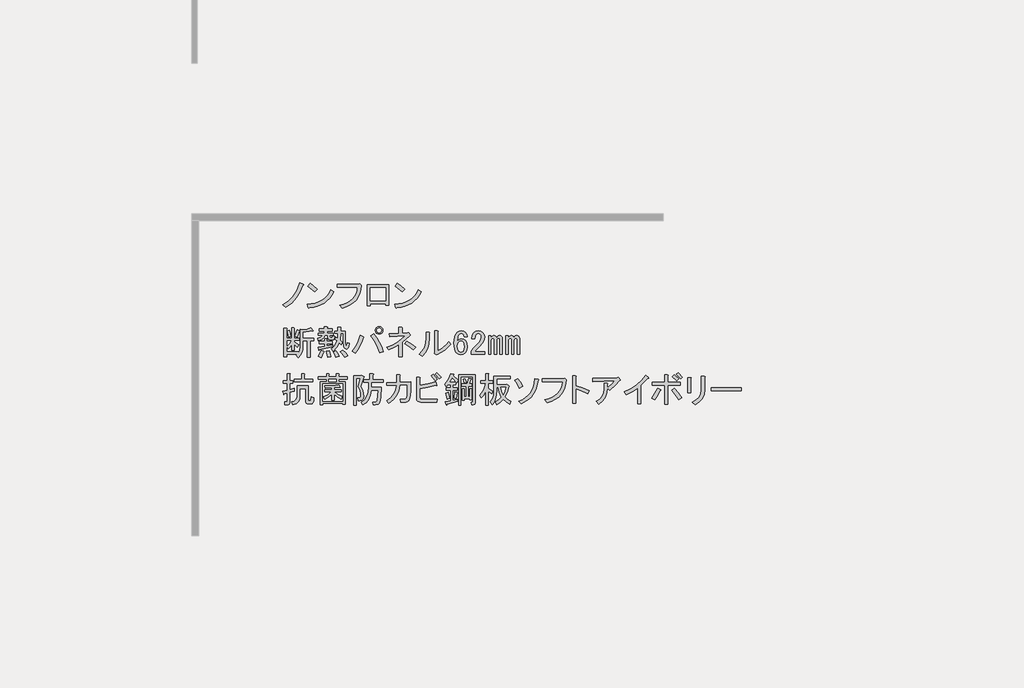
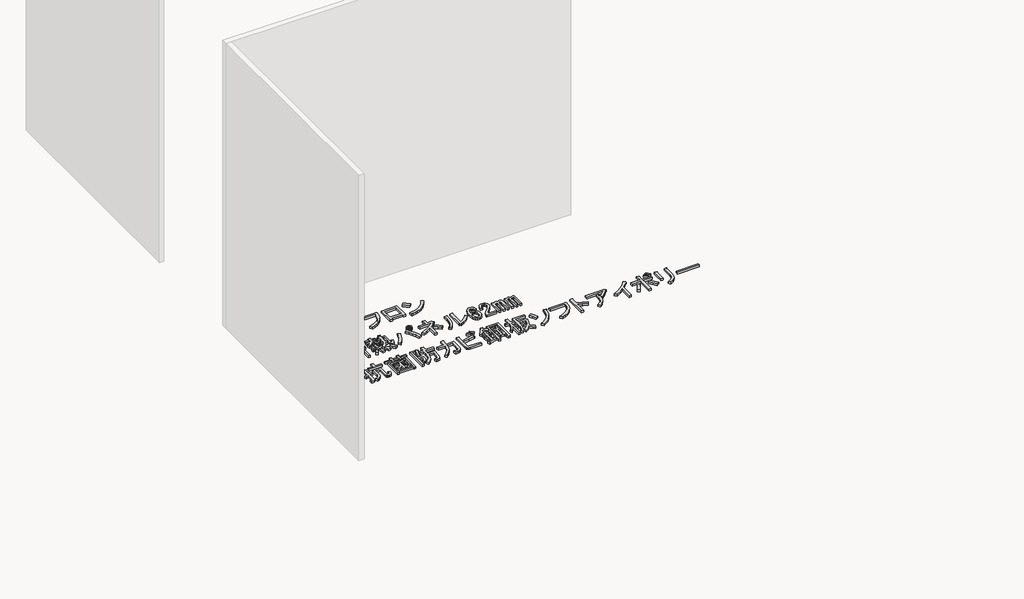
# One storey, part 69 of 117: 1 proxy.
"""IFC4 building model written with IfcOpenShell, lengths in millimetres."""

from ifc_helpers import new_model, si_unit, frame, origin, place, context, project, spatial, polyline, outline, extrude, element, save

model = new_model("IFC4")

# Units and contexts
model_context = context("Model", 3, world=origin())
ifc_project = project(units=[si_unit("LENGTHUNIT", "METRE", prefix="MILLI")], contexts=[model_context])

# Site, building, storey
site = spatial("IfcSite", under=ifc_project)
building = spatial("IfcBuilding", under=site)
storey = spatial("IfcBuildingStorey", under=building, Name="レベル 1", Elevation=500.0)

# Proxy
placement = place(None, origin())
element("IfcBuildingElementProxy", 1, Name="200㎜\u3000MS Pゴシック", ObjectType="200㎜\u3000MS Pゴシック", at=placement, inside=storey, context=model_context, shape_type="SweptSolid", body=[
    extrude(outline(polyline([(-7056.3293015, 3392.9503118), (-7081.9047498, 3333.1784775), (-7110.353844, 3287.2001434), (-7152.0217093, 3241.7965385), (-7201.1610538, 3204.439142), (-7228.7480543, 3226.2788507), (-7181.0455327, 3256.7394971), (-7141.3892195, 3295.2463519), (-7124.0036619, 3319.1694538), (-7108.6296565, 3347.2593423), (-7095.2672031, 3379.5160173), (-7083.9163019, 3415.9394788), (-7052.8809264, 3402.1459786), (-7049.7199159, 3397.5481452), (-7056.3293015, 3392.9503118)])), frame((0.0, 0.0, 500.0), z_axis=(0.0, 0.0, 1.0), x_axis=(1.0, 0.0, 0.0)), (0.0, 0.0, 1.0), 25.0),
    extrude(outline(polyline([(-6956.6022948, 3337.7763109), (-7015.2246708, 3384.9041033), (-6995.6838788, 3409.0427287), (-6968.3842429, 3389.2145721), (-6934.7625862, 3359.6160196), (-6956.6022948, 3337.7763109)])), frame((0.0, 0.0, 500.0), z_axis=(0.0, 0.0, 1.0), x_axis=(1.0, 0.0, 0.0)), (0.0, 0.0, 1.0), 25.0),
    extrude(outline(polyline([(-6794.5286672, 3337.7763109), (-6811.052131, 3308.034076), (-6830.1618761, 3282.0275808), (-6851.8579025, 3259.7568252), (-6876.1402102, 3241.2218093), (-6903.0087992, 3226.422533), (-6932.4636694, 3215.3589964), (-6964.504821, 3208.0311994), (-6999.1322539, 3204.439142), (-7004.8795456, 3196.3929336), (-7010.6268374, 3202.1402253), (-7019.8225042, 3232.0261425), (-6983.9917321, 3234.7022252), (-6951.2142088, 3241.0062859), (-6921.4899342, 3250.9383244), (-6894.8189084, 3264.4983409), (-6871.2011313, 3281.6863354), (-6850.636603, 3302.5023077), (-6833.1253234, 3326.946258), (-6818.6672926, 3355.0181862), (-6794.5286672, 3337.7763109)])), frame((0.0, 0.0, 500.0), z_axis=(0.0, 0.0, 1.0), x_axis=(1.0, 0.0, 0.0)), (0.0, 0.0, 1.0), 25.0),
    extrude(outline(polyline([(-6743.7685864, 3222.8304757), (-6709.985287, 3232.5110702), (-6680.4765359, 3244.8857078), (-6655.242333, 3259.9543884), (-6634.2826783, 3277.717112), (-6617.597572, 3298.1738786), (-6605.1870138, 3321.3246882), (-6597.0510039, 3347.1695409), (-6593.1895423, 3375.7084365), (-6765.6082951, 3375.7084365), (-6765.6082951, 3400.9965202), (-6590.8906256, 3400.9965202), (-6574.7982086, 3404.4448953), (-6562.1541668, 3392.9503118), (-6565.674383, 3356.4550091), (-6573.9361149, 3323.4080815), (-6586.9393625, 3293.8095289), (-6604.6841258, 3267.6593514), (-6627.1704048, 3244.957549), (-6654.3981995, 3225.7041216), (-6686.3675099, 3209.8990692), (-6723.078336, 3197.5423919), (-6743.7685864, 3222.8304757)])), frame((0.0, 0.0, 500.0), z_axis=(0.0, 0.0, 1.0), x_axis=(1.0, 0.0, 0.0)), (0.0, 0.0, 1.0), 25.0),
    extrude(outline(polyline([(-6329.044013, 3223.979934), (-6355.4815551, 3223.979934), (-6355.4815551, 3236.6239759), (-6483.0714321, 3236.6239759), (-6483.0714321, 3218.2326423), (-6509.5089742, 3218.2326423), (-6509.5089742, 3397.5481452), (-6329.044013, 3397.5481452), (-6329.044013, 3223.979934)]), holes=[polyline([(-6483.0714321, 3372.2600614), (-6483.0714321, 3261.9120596), (-6355.4815551, 3261.9120596), (-6355.4815551, 3372.2600614), (-6483.0714321, 3372.2600614)])]), frame((0.0, 0.0, 500.0), z_axis=(0.0, 0.0, 1.0), x_axis=(1.0, 0.0, 0.0)), (0.0, 0.0, 1.0), 25.0),
    extrude(outline(polyline([(-6052.9900951, 3337.7763109), (-6069.5135589, 3308.034076), (-6088.623304, 3282.0275808), (-6110.3193304, 3259.7568252), (-6134.6016381, 3241.2218093), (-6161.4702271, 3226.422533), (-6190.9250974, 3215.3589964), (-6222.9662489, 3208.0311994), (-6257.5936818, 3204.439142), (-6263.3409736, 3196.3929336), (-6269.0882653, 3202.1402253), (-6278.2839321, 3232.0261425), (-6242.4531601, 3234.7022252), (-6209.6756367, 3241.0062859), (-6179.9513622, 3250.9383244), (-6153.2803363, 3264.4983409), (-6129.6625593, 3281.6863354), (-6109.0980309, 3302.5023077), (-6091.5867514, 3326.946258), (-6077.1287205, 3355.0181862), (-6052.9900951, 3337.7763109)])), frame((0.0, 0.0, 500.0), z_axis=(0.0, 0.0, 1.0), x_axis=(1.0, 0.0, 0.0)), (0.0, 0.0, 1.0), 25.0),
    extrude(outline(polyline([(-6215.0637228, 3337.7763109), (-6273.6860987, 3384.9041033), (-6254.1453067, 3409.0427287), (-6226.8456709, 3389.2145721), (-6193.2240141, 3359.6160196), (-6215.0637228, 3337.7763109)])), frame((0.0, 0.0, 500.0), z_axis=(0.0, 0.0, 1.0), x_axis=(1.0, 0.0, 0.0)), (0.0, 0.0, 1.0), 25.0),
    extrude(outline(polyline([(-7122.9978859, 2960.7654779), (-7105.7560106, 3013.6405621), (-7085.0657603, 3007.8932704), (-7083.3415727, 3004.7322599), (-7087.364677, 3002.1459786), (-7104.6065522, 2953.8687278), (-7122.9978859, 2960.7654779)])), frame((0.0, 0.0, 500.0), z_axis=(0.0, 0.0, 1.0), x_axis=(1.0, 0.0, 0.0)), (0.0, 0.0, 1.0), 25.0),
    extrude(outline(polyline([(-6968.9704667, 3009.0427287), (-6970.6946542, 3004.4448953), (-6978.1661335, 3006.743812), (-7055.1798431, 2994.0997701), (-7055.1798431, 2944.673061), (-6963.2231749, 2944.673061), (-6963.2231749, 2922.8333523), (-6994.2585505, 2922.8333523), (-6994.2585505, 2782.5994334), (-7017.2477175, 2782.5994334), (-7017.2477175, 2922.8333523), (-7055.1798431, 2922.8333523), (-7055.1798431, 2873.4066432), (-7057.7661244, 2845.6041193), (-7065.5249683, 2820.8189236), (-7078.4563747, 2799.051056), (-7096.5603438, 2780.3005167), (-7113.8022191, 2799.8413086), (-7103.4570939, 2809.0369755), (-7193.1148454, 2809.0369755), (-7193.1148454, 2787.1972668), (-7216.1040124, 2787.1972668), (-7216.1040124, 3026.284604), (-7194.2643037, 3026.284604), (-7189.3791057, 3023.9856873), (-7193.1148454, 3019.3878539), (-7193.1148454, 2943.5236026), (-7150.5848863, 2943.5236026), (-7150.5848863, 3030.8824374), (-7132.1935527, 3030.8824374), (-7127.3083547, 3028.5835207), (-7131.0440943, 3023.9856873), (-7131.0440943, 2943.5236026), (-7087.364677, 2943.5236026), (-7087.364677, 2925.132269), (-7131.0440943, 2925.132269), (-7131.0440943, 2915.9366022), (-7090.813052, 2889.4990601), (-7104.6065522, 2867.6593514), (-7131.0440943, 2894.0968935), (-7131.0440943, 2841.2218093), (-7150.5848863, 2841.2218093), (-7150.5848863, 2889.4990601), (-7163.8036574, 2869.6709035), (-7178.1718868, 2853.8658512), (-7190.8159287, 2872.2571848), (-7168.97622, 2896.3958102), (-7151.7343447, 2925.132269), (-7193.1148454, 2925.132269), (-7193.1148454, 2830.8766841), (-7095.4108854, 2830.8766841), (-7095.4108854, 2817.0831839), (-7082.479479, 2841.2218093), (-7078.1690102, 2874.5561015), (-7078.1690102, 3019.3878539), (-7056.3293015, 3013.6405621), (-7020.1213634, 3021.1120414), (-6989.660717, 3034.3308125), (-6968.9704667, 3009.0427287)])), frame((0.0, 0.0, 500.0), z_axis=(0.0, 0.0, 1.0), x_axis=(1.0, 0.0, 0.0)), (0.0, 0.0, 1.0), 25.0),
    extrude(outline(polyline([(-7177.0224284, 2952.7192695), (-7189.6664703, 3003.2954369), (-7170.1256783, 3010.1921871), (-7162.3668344, 2986.0535617), (-7157.4816364, 2959.6160196), (-7177.0224284, 2952.7192695)])), frame((0.0, 0.0, 500.0), z_axis=(0.0, 0.0, 1.0), x_axis=(1.0, 0.0, 0.0)), (0.0, 0.0, 1.0), 25.0),
    extrude(outline(polyline([(-6878.1632569, 2832.0261425), (-6874.7148818, 2827.1409445), (-6880.4621736, 2823.979934), (-6890.2325696, 2798.4044857), (-6901.1524239, 2779.1510583), (-6924.141591, 2790.6456418), (-6911.4975491, 2814.209538), (-6901.1524239, 2841.2218093), (-6878.1632569, 2832.0261425)])), frame((0.0, 0.0, 500.0), z_axis=(0.0, 0.0, 1.0), x_axis=(1.0, 0.0, 0.0)), (0.0, 0.0, 1.0), 25.0),
    extrude(outline(polyline([(-6833.3343812, 2836.6239759), (-6823.2766206, 2809.32434), (-6818.3914226, 2787.1972668), (-6847.1278814, 2781.449975), (-6849.7141627, 2803.0023191), (-6857.4730066, 2833.1756008), (-6833.3343812, 2836.6239759)])), frame((0.0, 0.0, 500.0), z_axis=(0.0, 0.0, 1.0), x_axis=(1.0, 0.0, 0.0)), (0.0, 0.0, 1.0), 25.0),
    extrude(outline(polyline([(-6718.388546, 2842.3712677), (-6693.6751914, 2821.1062881), (-6674.7091286, 2796.3929336), (-6701.1466707, 2781.449975), (-6720.4000981, 2811.0485276), (-6739.0787963, 2830.8766841), (-6718.388546, 2842.3712677)])), frame((0.0, 0.0, 500.0), z_axis=(0.0, 0.0, 1.0), x_axis=(1.0, 0.0, 0.0)), (0.0, 0.0, 1.0), 25.0),
    extrude(outline(polyline([(-6777.0109219, 2783.7488917), (-6785.344495, 2808.4622463), (-6798.8506306, 2829.7272258), (-6778.1603803, 2837.7734343), (-6761.2058696, 2816.2210902), (-6749.4239215, 2792.9445585), (-6777.0109219, 2783.7488917)])), frame((0.0, 0.0, 500.0), z_axis=(0.0, 0.0, 1.0), x_axis=(1.0, 0.0, 0.0)), (0.0, 0.0, 1.0), 25.0),
    extrude(outline(polyline([(-6916.0953825, 2846.9691011), (-6918.1069346, 2842.0839031), (-6921.8426743, 2843.520726), (-6927.589966, 2867.6593514), (-6872.4159651, 2875.7055599), (-6872.4159651, 2898.6947269), (-6916.0953825, 2898.6947269), (-6916.0953825, 2917.0860605), (-6872.4159651, 2917.0860605), (-6872.4159651, 2940.0752276), (-6854.0246315, 2940.0752276), (-6849.1394335, 2937.7763109), (-6852.8751732, 2933.1784775), (-6852.8751732, 2917.0860605), (-6808.0462974, 2917.0860605), (-6808.0462974, 2898.6947269), (-6852.8751732, 2898.6947269), (-6852.8751732, 2879.1539349), (-6802.2990057, 2888.3496017), (-6802.2990057, 2872.2571848), (-6916.0953825, 2846.9691011)])), frame((0.0, 0.0, 500.0), z_axis=(0.0, 0.0, 1.0), x_axis=(1.0, 0.0, 0.0)), (0.0, 0.0, 1.0), 25.0),
    extrude(outline(polyline([(-6845.978423, 2968.8116864), (-6871.2665068, 2968.8116864), (-6875.8643402, 2951.3542877), (-6886.2094654, 2938.0636755), (-6902.3018823, 2928.9398498), (-6924.141591, 2923.9828107), (-6928.7394244, 2943.5236026), (-6903.4513406, 2952.1445403), (-6895.9798614, 2959.4723373), (-6891.9567571, 2968.8116864), (-6927.589966, 2968.8116864), (-6927.589966, 2987.20302), (-6873.5654235, 2987.20302), (-6873.5654235, 3004.4448953), (-6917.2448409, 3004.4448953), (-6917.2448409, 3022.8362289), (-6873.5654235, 3022.8362289), (-6873.5654235, 3041.2275626), (-6851.7257148, 3041.2275626), (-6846.8405168, 3038.9286459), (-6850.5762564, 3034.3308125), (-6850.5762564, 3022.8362289), (-6808.0462974, 3022.8362289), (-6808.0462974, 3004.4448953), (-6850.5762564, 3004.4448953), (-6850.5762564, 2987.20302), (-6797.7011723, 2987.20302), (-6797.7011723, 2968.8116864), (-6826.4376311, 2968.8116864), (-6826.4376311, 2956.1676445), (-6825.0008081, 2950.9950819), (-6820.6903393, 2949.2708944), (-6810.3452141, 2949.2708944), (-6806.6094745, 2952.4319049), (-6806.8968391, 2961.9149363), (-6787.3560471, 2959.6160196), (-6790.229693, 2938.0636755), (-6795.5459378, 2932.6755894), (-6803.448464, 2930.8795608), (-6827.5870894, 2930.8795608), (-6841.3805896, 2935.7647588), (-6845.978423, 2950.4203528), (-6845.978423, 2968.8116864)])), frame((0.0, 0.0, 500.0), z_axis=(0.0, 0.0, 1.0), x_axis=(1.0, 0.0, 0.0)), (0.0, 0.0, 1.0), 25.0),
    extrude(outline(polyline([(-6714.9401709, 2986.0535617), (-6736.7798796, 2986.0535617), (-6741.377713, 2928.5806441), (-6721.836921, 2910.1893104), (-6732.1820462, 2888.3496017), (-6748.2744631, 2904.4420187), (-6767.5278905, 2866.7972576), (-6797.7011723, 2834.3250592), (-6814.9430475, 2855.0153095), (-6799.8564067, 2866.9409399), (-6786.7813179, 2882.0275808), (-6775.7177813, 2900.2752321), (-6766.6657967, 2921.683894), (-6783.907672, 2936.6268525), (-6775.8614636, 2953.8687278), (-6762.0679633, 2943.5236026), (-6759.7690466, 2986.0535617), (-6787.3560471, 2986.0535617), (-6787.3560471, 3004.4448953), (-6759.7690466, 3004.4448953), (-6759.7690466, 3038.9286459), (-6737.9293379, 3038.9286459), (-6733.04414, 3036.6297292), (-6736.7798796, 3032.0318957), (-6736.7798796, 3004.4448953), (-6695.3993789, 3004.4448953), (-6695.3993789, 2907.8903937), (-6691.9510039, 2883.7517683), (-6688.7181523, 2881.7402162), (-6685.9163475, 2884.9012267), (-6681.6058787, 2906.7409354), (-6662.0650867, 2899.8441853), (-6666.591079, 2873.0474374), (-6674.421764, 2857.0268616), (-6685.5571418, 2851.7824579), (-6699.9972123, 2857.3142262), (-6706.5347567, 2864.6420232), (-6711.2044313, 2876.280289), (-6714.9401709, 2912.4882271), (-6714.9401709, 2986.0535617)])), frame((0.0, 0.0, 500.0), z_axis=(0.0, 0.0, 1.0), x_axis=(1.0, 0.0, 0.0)), (0.0, 0.0, 1.0), 25.0),
    extrude(outline(polyline([(-6456.3120417, 2983.754645), (-6429.6589762, 2947.0438188), (-6407.1726971, 2909.3272167), (-6388.8532047, 2870.6048384), (-6374.7004987, 2830.8766841), (-6405.7358742, 2820.531559), (-6421.1817208, 2863.6362472), (-6438.7828018, 2902.143102), (-6458.5391173, 2936.0521234), (-6480.4506671, 2965.3633113), (-6456.3120417, 2983.754645)])), frame((0.0, 0.0, 500.0), z_axis=(0.0, 0.0, 1.0), x_axis=(1.0, 0.0, 0.0)), (0.0, 0.0, 1.0), 25.0),
    extrude(outline(polyline([(-6543.6708765, 2957.3171029), (-6539.6477722, 2951.8571757), (-6545.9697932, 2946.9719777), (-6557.8954236, 2911.5542922), (-6572.9820644, 2877.717112), (-6591.2297158, 2845.460437), (-6612.6383776, 2814.7842672), (-6639.0759197, 2832.0261425), (-6615.8712292, 2863.4925649), (-6596.8333252, 2896.9705394), (-6581.9622078, 2932.460066), (-6571.2578769, 2969.9611447), (-6543.6708765, 2957.3171029)])), frame((0.0, 0.0, 500.0), z_axis=(0.0, 0.0, 1.0), x_axis=(1.0, 0.0, 0.0)), (0.0, 0.0, 1.0), 25.0),
    extrude(outline(polyline([(-6410.3337076, 2978.0073532), (-6422.9777495, 2980.3062699), (-6433.3228747, 2987.20302), (-6440.2196248, 2997.5481452), (-6442.5185415, 3010.1921871), (-6440.2196248, 3022.8362289), (-6433.3228747, 3033.1813541), (-6422.9777495, 3040.0781042), (-6410.3337076, 3042.3770209), (-6397.6896657, 3040.0781042), (-6387.3445406, 3033.1813541), (-6380.4477905, 3022.8362289), (-6378.1488738, 3010.1921871), (-6380.4477905, 2997.5481452), (-6387.3445406, 2987.20302), (-6397.6896657, 2980.3062699), (-6410.3337076, 2978.0073532)]), holes=[polyline([(-6410.3337076, 2989.5019367), (-6402.0001346, 2990.9387597), (-6395.390749, 2995.2492285), (-6391.0802802, 3001.858614), (-6389.6434573, 3010.1921871), (-6391.0802802, 3018.5257601), (-6395.390749, 3025.1351456), (-6402.0001346, 3029.4456145), (-6410.3337076, 3030.8824374), (-6418.6672807, 3029.4456145), (-6425.2766662, 3025.1351456), (-6429.587135, 3018.5257601), (-6431.023958, 3010.1921871), (-6429.587135, 3001.858614), (-6425.2766662, 2995.2492285), (-6418.6672807, 2990.9387597), (-6410.3337076, 2989.5019367)])]), frame((0.0, 0.0, 500.0), z_axis=(0.0, 0.0, 1.0), x_axis=(1.0, 0.0, 0.0)), (0.0, 0.0, 1.0), 25.0),
    extrude(outline(polyline([(-6120.6702029, 2844.6701844), (-6157.7402348, 2873.9813723), (-6190.7871624, 2895.2463519), (-6173.5452871, 2917.0860605), (-6134.7510677, 2893.8095289), (-6101.1294109, 2867.6593514), (-6120.6702029, 2844.6701844)])), frame((0.0, 0.0, 500.0), z_axis=(0.0, 0.0, 1.0), x_axis=(1.0, 0.0, 0.0)), (0.0, 0.0, 1.0), 25.0),
    extrude(outline(polyline([(-6166.648537, 2988.3524784), (-6159.7517869, 2990.6513951), (-6147.107745, 2973.4095198), (-6145.9582866, 2967.3748634), (-6151.7055784, 2965.3633113), (-6214.9257878, 2909.0398521), (-6214.9257878, 2788.3467251), (-6241.3633299, 2788.3467251), (-6241.3633299, 2890.6485184), (-6281.5943722, 2866.5098931), (-6326.4232479, 2844.6701844), (-6345.9640399, 2865.3604347), (-6300.4167527, 2884.8293855), (-6259.1799343, 2907.6030291), (-6222.2535848, 2933.6813655), (-6189.637704, 2963.0643946), (-6319.5264978, 2957.3171029), (-6322.9748729, 2982.6051866), (-6241.3633299, 2984.9041033), (-6241.3633299, 3036.6297292), (-6218.3741628, 3036.6297292), (-6212.3395065, 3033.1813541), (-6214.9257878, 3027.4340623), (-6214.9257878, 2986.0535617), (-6166.648537, 2988.3524784)])), frame((0.0, 0.0, 500.0), z_axis=(0.0, 0.0, 1.0), x_axis=(1.0, 0.0, 0.0)), (0.0, 0.0, 1.0), 25.0),
    extrude(outline(polyline([(-6067.703162, 2806.7380587), (-6042.5587606, 2835.9774056), (-6024.5984738, 2868.5214452), (-6013.8223018, 2904.3701775), (-6010.2302444, 2943.5236026), (-6010.2302444, 2995.2492285), (-5986.091619, 2995.2492285), (-5980.3443273, 2991.8008534), (-5983.7927023, 2986.0535617), (-5983.7927023, 2944.673061), (-5987.6002831, 2898.9102504), (-5999.0230255, 2858.17632), (-6018.0609295, 2822.4712699), (-6044.713995, 2791.7951002), (-6067.703162, 2806.7380587)])), frame((0.0, 0.0, 500.0), z_axis=(0.0, 0.0, 1.0), x_axis=(1.0, 0.0, 0.0)), (0.0, 0.0, 1.0), 25.0),
    extrude(outline(polyline([(-5913.6757429, 2837.7734343), (-5888.8905471, 2849.9864292), (-5865.1111275, 2867.0846222), (-5842.3374839, 2889.0680132), (-5820.5696163, 2915.9366022), (-5804.4771994, 2894.0968935), (-5827.753731, 2866.2943696), (-5853.9039086, 2842.6586322), (-5882.9277319, 2823.1896814), (-5914.8252012, 2807.8875171), (-5924.020868, 2803.2896837), (-5942.4122017, 2817.0831839), (-5940.113285, 2822.8304757), (-5940.113285, 3007.8932704), (-5915.9746596, 3007.8932704), (-5910.2273678, 3004.4448953), (-5913.6757429, 2998.6976035), (-5913.6757429, 2837.7734343)])), frame((0.0, 0.0, 500.0), z_axis=(0.0, 0.0, 1.0), x_axis=(1.0, 0.0, 0.0)), (0.0, 0.0, 1.0), 25.0),
    extrude(outline(polyline([(-5775.7407406, 2902.143102), (-5774.0165531, 2931.5261311), (-5768.8439905, 2956.4550091), (-5760.2230529, 2976.929736), (-5748.1537402, 2992.9503118), (-5732.6360524, 3003.2954369), (-5713.6699896, 3006.743812), (-5693.841833, 3003.2954369), (-5678.0367807, 2992.9503118), (-5666.8295618, 2975.9958011), (-5663.0938221, 2955.0181862), (-5689.5313642, 2955.0181862), (-5691.2555517, 2968.8116864), (-5696.4281143, 2978.0073532), (-5704.1869582, 2983.1799158), (-5713.6699896, 2984.9041033), (-5723.153021, 2983.1799158), (-5730.9118649, 2978.0073532), (-5738.9580734, 2967.0874989), (-5744.7053651, 2952.7192695), (-5749.3031985, 2913.6376855), (-5737.808615, 2928.5806441), (-5726.3140315, 2936.3394879), (-5712.5205313, 2938.9257692), (-5693.5544684, 2935.4773942), (-5678.0367807, 2925.132269), (-5665.1053742, 2903.5799249), (-5660.7949054, 2873.4066432), (-5665.3927388, 2842.0839031), (-5679.186239, 2819.3821006), (-5695.5660206, 2809.0369755), (-5717.1183647, 2805.5886004), (-5736.9465212, 2809.8990692), (-5755.0504903, 2822.8304757), (-5764.1024748, 2835.5463587), (-5770.568178, 2853.0037574), (-5775.7407406, 2902.143102)]), holes=[polyline([(-5714.819448, 2918.2355189), (-5725.4519377, 2916.2239668), (-5734.3602399, 2910.1893104), (-5743.8432714, 2895.2463519), (-5747.0042818, 2875.7055599), (-5743.5559068, 2851.5669345), (-5733.2107816, 2834.3250592), (-5724.8772085, 2828.2904028), (-5715.9689063, 2826.2788507), (-5706.4858749, 2828.0030383), (-5698.727031, 2833.1756008), (-5690.9681872, 2848.405924), (-5688.3819059, 2873.4066432), (-5690.9681872, 2895.821081), (-5698.727031, 2910.1893104), (-5706.7732395, 2916.2239668), (-5714.819448, 2918.2355189)])]), frame((0.0, 0.0, 500.0), z_axis=(0.0, 0.0, 1.0), x_axis=(1.0, 0.0, 0.0)), (0.0, 0.0, 1.0), 25.0),
    extrude(outline(polyline([(-5625.1616965, 2937.7763109), (-5620.5638631, 2969.099051), (-5606.7703629, 2991.8008534), (-5590.3905814, 3003.0080724), (-5571.137154, 3006.743812), (-5548.4353515, 3003.0080724), (-5530.9061116, 2991.8008534), (-5519.6988927, 2975.1337073), (-5515.9631531, 2955.0181862), (-5520.2736219, 2929.1553732), (-5533.2050283, 2906.7409354), (-5566.5393205, 2868.8088098), (-5584.9306542, 2848.1185594), (-5598.7241544, 2829.7272258), (-5512.514778, 2829.7272258), (-5512.514778, 2807.8875171), (-5629.7595299, 2807.8875171), (-5629.7595299, 2827.4283091), (-5623.7248736, 2841.2218093), (-5610.2187379, 2859.6131429), (-5563.0909455, 2911.3387688), (-5548.4353515, 2932.6037483), (-5543.5501535, 2955.0181862), (-5545.8490702, 2967.662228), (-5552.7458203, 2978.0073532), (-5560.5046642, 2983.1799158), (-5569.9876956, 2984.9041033), (-5578.6086332, 2983.1799158), (-5586.0801125, 2978.0073532), (-5595.5631439, 2961.6275717), (-5598.7241544, 2937.7763109), (-5625.1616965, 2937.7763109)])), frame((0.0, 0.0, 500.0), z_axis=(0.0, 0.0, 1.0), x_axis=(1.0, 0.0, 0.0)), (0.0, 0.0, 1.0), 25.0),
    extrude(outline(polyline([(-5463.0880689, 2806.7380587), (-5482.6288608, 2806.7380587), (-5482.6288608, 2964.213853), (-5463.0880689, 2964.213853), (-5463.0880689, 2946.9719777), (-5451.0187562, 2962.4896654), (-5437.7999851, 2967.662228), (-5428.6043183, 2966.2254051), (-5421.7075682, 2961.9149363), (-5414.8108181, 2948.121436), (-5401.8794116, 2962.77703), (-5388.373276, 2967.662228), (-5380.0397029, 2966.2254051), (-5373.4303174, 2961.9149363), (-5368.2577548, 2953.2939986), (-5366.5335673, 2941.2246859), (-5366.5335673, 2806.7380587), (-5386.0743593, 2806.7380587), (-5386.0743593, 2930.8795608), (-5388.6606406, 2940.3625922), (-5396.4194844, 2943.5236026), (-5406.7646096, 2938.9257692), (-5412.799266, 2930.3048316), (-5414.8108181, 2920.5344356), (-5414.8108181, 2806.7380587), (-5434.3516101, 2806.7380587), (-5434.3516101, 2930.8795608), (-5436.9378914, 2940.3625922), (-5444.6967352, 2943.5236026), (-5455.0418604, 2938.9257692), (-5461.0765167, 2930.3048316), (-5463.0880689, 2920.5344356), (-5463.0880689, 2806.7380587)])), frame((0.0, 0.0, 500.0), z_axis=(0.0, 0.0, 1.0), x_axis=(1.0, 0.0, 0.0)), (0.0, 0.0, 1.0), 25.0),
    extrude(outline(polyline([(-5241.2426069, 2967.662228), (-5232.9090339, 2966.2254051), (-5226.2996483, 2961.9149363), (-5221.1270858, 2953.2939986), (-5219.4028982, 2941.2246859), (-5219.4028982, 2806.7380587), (-5238.9436902, 2806.7380587), (-5238.9436902, 2930.8795608), (-5241.5299715, 2940.3625922), (-5249.2888154, 2943.5236026), (-5259.6339406, 2938.9257692), (-5265.6685969, 2930.3048316), (-5267.680149, 2920.5344356), (-5267.680149, 2806.7380587), (-5287.220941, 2806.7380587), (-5287.220941, 2930.8795608), (-5289.8072223, 2940.3625922), (-5297.5660662, 2943.5236026), (-5307.9111913, 2938.9257692), (-5313.9458477, 2930.3048316), (-5315.9573998, 2920.5344356), (-5315.9573998, 2806.7380587), (-5335.4981918, 2806.7380587), (-5335.4981918, 2964.213853), (-5315.9573998, 2964.213853), (-5315.9573998, 2946.9719777), (-5303.8880871, 2962.4896654), (-5290.6693161, 2967.662228), (-5281.4736492, 2966.2254051), (-5274.5768991, 2961.9149363), (-5267.680149, 2948.121436), (-5254.7487426, 2962.77703), (-5241.2426069, 2967.662228)])), frame((0.0, 0.0, 500.0), z_axis=(0.0, 0.0, 1.0), x_axis=(1.0, 0.0, 0.0)), (0.0, 0.0, 1.0), 25.0),
    extrude(outline(polyline([(-7010.3509674, 2538.9257692), (-7010.3509674, 2422.8304757), (-7008.3394153, 2415.9337256), (-7002.3047589, 2413.6348089), (-6995.4080088, 2413.6348089), (-6990.8101754, 2415.9337256), (-6988.5112587, 2422.8304757), (-6986.212342, 2445.8196427), (-6962.0737166, 2437.7734343), (-6964.3726333, 2414.7842672), (-6966.67155, 2403.2178425), (-6971.2693834, 2394.9561106), (-6978.1661335, 2389.9990715), (-6987.3618003, 2388.3467251), (-7009.201509, 2388.3467251), (-7019.7621576, 2389.6398658), (-7027.3054781, 2393.5192877), (-7031.8314703, 2399.9849909), (-7033.3401344, 2409.0369755), (-7033.3401344, 2517.0860605), (-7080.4679269, 2517.0860605), (-7080.4679269, 2451.5669345), (-7084.2036665, 2426.7098976), (-7095.4108854, 2406.1633296), (-7114.0895837, 2389.9272303), (-7140.2397612, 2378.0015999), (-7149.435428, 2403.2896837), (-7129.3199068, 2410.761163), (-7114.9516774, 2421.6810173), (-7106.3307398, 2436.0492467), (-7103.4570939, 2453.8658512), (-7103.4570939, 2538.9257692), (-7010.3509674, 2538.9257692)])), frame((0.0, 0.0, 500.0), z_axis=(0.0, 0.0, 1.0), x_axis=(1.0, 0.0, 0.0)), (0.0, 0.0, 1.0), 25.0),
    extrude(outline(polyline([(-7212.6556373, 2472.2571848), (-7216.1040124, 2466.2225285), (-7219.5523875, 2471.1077265), (-7227.5985959, 2494.0968935), (-7189.6664703, 2502.143102), (-7189.6664703, 2561.9149363), (-7223.0007625, 2561.9149363), (-7223.0007625, 2583.754645), (-7189.6664703, 2583.754645), (-7189.6664703, 2643.5264793), (-7167.8267616, 2643.5264793), (-7162.9415636, 2641.2275626), (-7166.6773033, 2636.6297292), (-7166.6773033, 2583.754645), (-7140.2397612, 2583.754645), (-7140.2397612, 2561.9149363), (-7166.6773033, 2561.9149363), (-7166.6773033, 2507.8903937), (-7131.0440943, 2518.2355189), (-7128.7451776, 2496.3958102), (-7166.6773033, 2484.9012267), (-7166.6773033, 2396.3929336), (-7170.4130429, 2384.3236209), (-7181.6202618, 2380.3005167), (-7208.0578039, 2380.3005167), (-7211.506179, 2405.5886004), (-7194.2643037, 2405.5886004), (-7190.8159287, 2406.7380587), (-7189.6664703, 2410.1864338), (-7189.6664703, 2479.1539349), (-7212.6556373, 2472.2571848)])), frame((0.0, 0.0, 500.0), z_axis=(0.0, 0.0, 1.0), x_axis=(1.0, 0.0, 0.0)), (0.0, 0.0, 1.0), 25.0),
    extrude(outline(polyline([(-7066.6744266, 2596.3986868), (-7066.6744266, 2642.3770209), (-7044.8347179, 2642.3770209), (-7039.9495199, 2640.0781042), (-7043.6852596, 2635.4802708), (-7043.6852596, 2596.3986868), (-6972.4188418, 2596.3986868), (-6972.4188418, 2574.5589781), (-7128.7451776, 2574.5589781), (-7128.7451776, 2596.3986868), (-7066.6744266, 2596.3986868)])), frame((0.0, 0.0, 500.0), z_axis=(0.0, 0.0, 1.0), x_axis=(1.0, 0.0, 0.0)), (0.0, 0.0, 1.0), 25.0),
    extrude(outline(polyline([(-6751.7228382, 2576.8578948), (-6696.5488373, 2576.8578948), (-6696.5488373, 2382.5994334), (-6716.0896293, 2382.5994334), (-6716.0896293, 2391.7951002), (-6888.5083821, 2391.7951002), (-6888.5083821, 2378.0015999), (-6908.0491741, 2378.0015999), (-6908.0491741, 2576.8578948), (-6855.1740899, 2576.8578948), (-6855.1740899, 2597.5481452), (-6925.2910493, 2597.5481452), (-6925.2910493, 2615.9394788), (-6855.1740899, 2615.9394788), (-6855.1740899, 2642.3770209), (-6836.7827562, 2642.3770209), (-6831.8975582, 2640.0781042), (-6835.6332979, 2635.4802708), (-6835.6332979, 2615.9394788), (-6771.2636302, 2615.9394788), (-6771.2636302, 2642.3770209), (-6752.8722965, 2642.3770209), (-6747.9870985, 2640.0781042), (-6751.7228382, 2635.4802708), (-6751.7228382, 2615.9394788), (-6678.1575036, 2615.9394788), (-6678.1575036, 2597.5481452), (-6751.7228382, 2597.5481452), (-6751.7228382, 2576.8578948)]), holes=[polyline([(-6888.5083821, 2558.4665612), (-6888.5083821, 2410.1864338), (-6716.0896293, 2410.1864338), (-6716.0896293, 2558.4665612), (-6888.5083821, 2558.4665612)]), polyline([(-6835.6332979, 2576.8578948), (-6771.2636302, 2576.8578948), (-6771.2636302, 2597.5481452), (-6835.6332979, 2597.5481452), (-6835.6332979, 2576.8578948)])]), frame((0.0, 0.0, 500.0), z_axis=(0.0, 0.0, 1.0), x_axis=(1.0, 0.0, 0.0)), (0.0, 0.0, 1.0), 25.0),
    extrude(outline(polyline([(-6870.1170484, 2538.9257692), (-6804.0231932, 2542.6615089), (-6752.8722965, 2549.2708944), (-6742.5271714, 2535.4773942), (-6740.2282547, 2529.4427378), (-6747.1250048, 2529.7301024), (-6791.9538805, 2526.2817274), (-6791.9538805, 2509.0398521), (-6732.1820462, 2509.0398521), (-6732.1820462, 2490.6485184), (-6788.5055054, 2490.6485184), (-6757.1827653, 2466.2225285), (-6720.6874627, 2450.4174761), (-6728.7336711, 2428.5777674), (-6761.2058696, 2444.0954552), (-6791.9538805, 2469.9582681), (-6791.9538805, 2419.3821006), (-6811.4946725, 2419.3821006), (-6811.4946725, 2468.8088098), (-6836.4953916, 2446.1070073), (-6872.4159651, 2426.2788507), (-6881.611632, 2445.8196427), (-6842.8174126, 2465.6477993), (-6813.7935892, 2490.6485184), (-6871.2665068, 2490.6485184), (-6871.2665068, 2509.0398521), (-6811.4946725, 2509.0398521), (-6811.4946725, 2523.9828107), (-6865.519215, 2521.683894), (-6870.1170484, 2538.9257692)])), frame((0.0, 0.0, 500.0), z_axis=(0.0, 0.0, 1.0), x_axis=(1.0, 0.0, 0.0)), (0.0, 0.0, 1.0), 25.0),
    extrude(outline(polyline([(-6475.8528337, 2504.4420187), (-6483.0369484, 2461.2654893), (-6497.6925424, 2425.9914861), (-6519.8196156, 2398.6200091), (-6549.4181682, 2379.1510583), (-6560.9127517, 2402.1402253), (-6533.2539101, 2421.9683819), (-6513.4975947, 2450.4174761), (-6501.6438055, 2487.487508), (-6497.6925424, 2533.1784775), (-6497.6925424, 2571.1106031), (-6541.3719597, 2571.1106031), (-6541.3719597, 2592.9503118), (-6488.4968756, 2592.9503118), (-6488.4968756, 2641.2275626), (-6463.2087918, 2641.2275626), (-6457.1741355, 2637.7791875), (-6462.0593335, 2632.0318957), (-6462.0593335, 2592.9503118), (-6373.5510404, 2592.9503118), (-6373.5510404, 2571.1106031), (-6474.7033753, 2571.1106031), (-6474.7033753, 2526.2817274), (-6391.942374, 2526.2817274), (-6397.6896657, 2444.0954552), (-6405.7358742, 2399.8413086), (-6410.6210722, 2391.2922121), (-6418.3799161, 2385.1857146), (-6442.5185415, 2380.3005167), (-6460.9098751, 2380.3005167), (-6464.3582502, 2402.1402253), (-6447.1163749, 2402.1402253), (-6434.7596976, 2405.3012358), (-6427.5755829, 2414.7842672), (-6418.3799161, 2504.4420187), (-6475.8528337, 2504.4420187)])), frame((0.0, 0.0, 500.0), z_axis=(0.0, 0.0, 1.0), x_axis=(1.0, 0.0, 0.0)), (0.0, 0.0, 1.0), 25.0),
    extrude(outline(polyline([(-6542.5214181, 2479.1539349), (-6540.5817071, 2451.4950933), (-6545.1076994, 2431.7387779), (-6556.0993949, 2419.8849886), (-6573.5567936, 2415.9337256), (-6587.3502938, 2415.9337256), (-6591.9481272, 2437.7734343), (-6580.4535437, 2437.7734343), (-6572.1199707, 2439.9286687), (-6566.6600435, 2446.3943719), (-6564.0737622, 2457.1705439), (-6564.3611268, 2472.2571848), (-6571.2578769, 2499.2694561), (-6587.3502938, 2534.3279358), (-6568.9589602, 2605.5943537), (-6603.4427108, 2605.5943537), (-6603.4427108, 2376.8521416), (-6626.4318778, 2376.8521416), (-6626.4318778, 2627.4340623), (-6562.0622101, 2627.4340623), (-6559.7632934, 2632.0318957), (-6535.624668, 2619.3878539), (-6534.187845, 2615.6521142), (-6539.073043, 2613.6405621), (-6565.5105851, 2535.4773942), (-6549.9928974, 2503.0051957), (-6542.5214181, 2479.1539349)])), frame((0.0, 0.0, 500.0), z_axis=(0.0, 0.0, 1.0), x_axis=(1.0, 0.0, 0.0)), (0.0, 0.0, 1.0), 25.0),
    extrude(outline(polyline([(-6170.096912, 2549.2708944), (-6235.6160381, 2546.9719777), (-6243.87777, 2500.706279), (-6261.7662156, 2459.6131429), (-6289.2813749, 2423.6925694), (-6326.4232479, 2392.9445585), (-6345.9640399, 2412.4853505), (-6310.9774013, 2440.7189213), (-6285.3301118, 2472.5445494), (-6269.0221715, 2507.9622349), (-6262.0535802, 2546.9719777), (-6343.6651232, 2544.673061), (-6345.9640399, 2567.662228), (-6260.9041219, 2569.9611447), (-6260.9041219, 2634.3308125), (-6236.7654965, 2634.3308125), (-6229.8687463, 2630.8824374), (-6234.4665798, 2625.1351456), (-6234.4665798, 2569.9611447), (-6143.6593699, 2573.4095198), (-6143.6593699, 2502.143102), (-6146.2456512, 2454.1532158), (-6154.0044951, 2422.8304757), (-6160.6138806, 2412.7727151), (-6170.096912, 2405.5886004), (-6182.4535893, 2401.2781316), (-6197.6839125, 2399.8413086), (-6225.2709129, 2399.8413086), (-6228.719288, 2428.5777674), (-6198.8333708, 2426.2788507), (-6184.752506, 2429.1524966), (-6176.9936622, 2437.7734343), (-6171.8210996, 2463.061518), (-6170.096912, 2502.143102), (-6170.096912, 2549.2708944)])), frame((0.0, 0.0, 500.0), z_axis=(0.0, 0.0, 1.0), x_axis=(1.0, 0.0, 0.0)), (0.0, 0.0, 1.0), 25.0),
    extrude(outline(polyline([(-5919.606948, 2546.9719777), (-5919.3195834, 2540.9373213), (-5929.9520731, 2543.5236026), (-5996.0459284, 2528.2932795), (-6065.5881587, 2517.0860605), (-6065.5881587, 2442.3712677), (-6061.852419, 2431.1640487), (-6050.6452001, 2427.4283091), (-5918.4574896, 2427.4283091), (-5920.7564063, 2402.1402253), (-6055.2430335, 2402.1402253), (-6071.3354504, 2404.0080952), (-6082.830034, 2409.6117046), (-6089.7267841, 2418.9510537), (-6092.0257008, 2432.0261425), (-6092.0257008, 2612.4911038), (-6069.0365337, 2612.4911038), (-6061.852419, 2609.0427287), (-6065.5881587, 2603.2954369), (-6065.5881587, 2544.673061), (-5992.3101887, 2556.4550091), (-5928.8026148, 2573.4095198), (-5919.606948, 2546.9719777)])), frame((0.0, 0.0, 500.0), z_axis=(0.0, 0.0, 1.0), x_axis=(1.0, 0.0, 0.0)), (0.0, 0.0, 1.0), 25.0),
    extrude(outline(polyline([(-5933.4004482, 2584.9041033), (-5969.0336571, 2625.1351456), (-5952.9412402, 2637.7791875), (-5917.3080313, 2597.5481452), (-5933.4004482, 2584.9041033)])), frame((0.0, 0.0, 500.0), z_axis=(0.0, 0.0, 1.0), x_axis=(1.0, 0.0, 0.0)), (0.0, 0.0, 1.0), 25.0),
    extrude(outline(polyline([(-5900.066156, 2600.9965202), (-5935.6993649, 2640.0781042), (-5921.9058647, 2652.7221461), (-5885.1231974, 2613.6405621), (-5900.066156, 2600.9965202)])), frame((0.0, 0.0, 500.0), z_axis=(0.0, 0.0, 1.0), x_axis=(1.0, 0.0, 0.0)), (0.0, 0.0, 1.0), 25.0),
    extrude(outline(polyline([(-5750.4526569, 2565.3633113), (-5791.8331575, 2609.0427287), (-5813.6728662, 2569.9611447), (-5758.4988653, 2569.9611447), (-5758.4988653, 2551.5698111), (-5784.9364074, 2551.5698111), (-5784.9364074, 2522.8333523), (-5747.0042818, 2522.8333523), (-5747.0042818, 2504.4420187), (-5784.9364074, 2504.4420187), (-5784.9364074, 2417.0831839), (-5745.8548235, 2427.4283091), (-5743.5559068, 2407.8875171), (-5835.5125749, 2382.5994334), (-5837.8114916, 2376.8521416), (-5842.409325, 2380.3005167), (-5849.3060752, 2403.2896837), (-5804.4771994, 2412.4853505), (-5804.4771994, 2504.4420187), (-5842.409325, 2504.4420187), (-5842.409325, 2522.8333523), (-5804.4771994, 2522.8333523), (-5804.4771994, 2551.5698111), (-5826.3169081, 2551.5698111), (-5841.2598667, 2533.1784775), (-5853.9039086, 2553.8687278), (-5825.7421789, 2591.5134888), (-5801.0288244, 2642.3770209), (-5779.1891157, 2636.6297292), (-5775.7407406, 2632.8939895), (-5781.4880324, 2630.8824374), (-5782.6374907, 2627.4340623), (-5737.808615, 2589.5019367), (-5750.4526569, 2565.3633113)])), frame((0.0, 0.0, 500.0), z_axis=(0.0, 0.0, 1.0), x_axis=(1.0, 0.0, 0.0)), (0.0, 0.0, 1.0), 25.0),
    extrude(outline(polyline([(-5682.6346141, 2602.1459786), (-5675.4504994, 2586.9156554), (-5669.9905722, 2566.5127697), (-5687.2324475, 2560.7654779), (-5698.727031, 2597.5481452), (-5682.6346141, 2602.1459786)])), frame((0.0, 0.0, 500.0), z_axis=(0.0, 0.0, 1.0), x_axis=(1.0, 0.0, 0.0)), (0.0, 0.0, 1.0), 25.0),
    extrude(outline(polyline([(-5629.7595299, 2600.9965202), (-5627.1732486, 2597.5481452), (-5633.207905, 2594.0997701), (-5645.8519468, 2556.1676445), (-5625.1616965, 2556.1676445), (-5625.1616965, 2537.7763109), (-5656.197072, 2537.7763109), (-5656.197072, 2449.2680178), (-5641.2541134, 2449.2680178), (-5641.2541134, 2517.0860605), (-5625.1616965, 2517.0860605), (-5625.1616965, 2422.8304757), (-5641.2541134, 2422.8304757), (-5641.2541134, 2430.8766841), (-5687.2324475, 2430.8766841), (-5687.2324475, 2418.2326423), (-5703.3248644, 2418.2326423), (-5703.3248644, 2514.7871438), (-5687.2324475, 2514.7871438), (-5687.2324475, 2449.2680178), (-5672.2894889, 2449.2680178), (-5672.2894889, 2537.7763109), (-5707.9226978, 2537.7763109), (-5707.9226978, 2556.1676445), (-5661.9443638, 2556.1676445), (-5651.5992386, 2605.5943537), (-5629.7595299, 2600.9965202)])), frame((0.0, 0.0, 500.0), z_axis=(0.0, 0.0, 1.0), x_axis=(1.0, 0.0, 0.0)), (0.0, 0.0, 1.0), 25.0),
    extrude(outline(polyline([(-5735.5096983, 2634.3308125), (-5595.2757793, 2634.3308125), (-5595.2757793, 2394.0940169), (-5599.011519, 2382.8867979), (-5610.2187379, 2379.1510583), (-5626.3111549, 2379.1510583), (-5630.9089883, 2400.990767), (-5619.4144047, 2400.990767), (-5615.9660297, 2402.1402253), (-5614.8165713, 2405.5886004), (-5614.8165713, 2615.9394788), (-5715.9689063, 2615.9394788), (-5715.9689063, 2376.8521416), (-5735.5096983, 2376.8521416), (-5735.5096983, 2634.3308125)])), frame((0.0, 0.0, 500.0), z_axis=(0.0, 0.0, 1.0), x_axis=(1.0, 0.0, 0.0)), (0.0, 0.0, 1.0), 25.0),
    extrude(outline(polyline([(-5747.0042818, 2486.050685), (-5744.4180005, 2482.8896746), (-5748.1537402, 2480.3033933), (-5756.1999486, 2433.1756008), (-5774.5912823, 2435.4745175), (-5768.8439905, 2489.4990601), (-5747.0042818, 2486.050685)])), frame((0.0, 0.0, 500.0), z_axis=(0.0, 0.0, 1.0), x_axis=(1.0, 0.0, 0.0)), (0.0, 0.0, 1.0), 25.0),
    extrude(outline(polyline([(-5824.0179914, 2484.9012267), (-5812.5234079, 2433.1756008), (-5833.2136582, 2427.4283091), (-5844.7082417, 2479.1539349), (-5824.0179914, 2484.9012267)])), frame((0.0, 0.0, 500.0), z_axis=(0.0, 0.0, 1.0), x_axis=(1.0, 0.0, 0.0)), (0.0, 0.0, 1.0), 25.0),
    extrude(outline(polyline([(-5424.0064849, 2405.5886004), (-5395.2700261, 2422.8304757), (-5373.4303174, 2444.6701844), (-5391.2469219, 2486.6254142), (-5401.0173179, 2527.4311857), (-5413.6613597, 2527.4311857), (-5413.6613597, 2503.2925603), (-5416.1039587, 2461.5528539), (-5423.4317557, 2427.1409445), (-5435.6447507, 2400.0568321), (-5452.7429437, 2380.3005167), (-5466.5364439, 2403.2896837), (-5453.4613552, 2420.6752413), (-5444.1220061, 2442.9459968), (-5438.5183966, 2470.1019504), (-5436.6505268, 2502.143102), (-5436.6505268, 2622.8362289), (-5299.8649829, 2622.8362289), (-5299.8649829, 2600.9965202), (-5413.6613597, 2600.9965202), (-5413.6613597, 2549.2708944), (-5334.3487334, 2549.2708944), (-5328.6014417, 2555.0181862), (-5309.0606497, 2541.2246859), (-5307.6238268, 2537.4889463), (-5312.5090247, 2533.1784775), (-5324.865702, 2486.6254142), (-5343.5444003, 2445.8196427), (-5324.5783374, 2427.4283091), (-5292.9682328, 2409.0369755), (-5302.1638996, 2384.8983501), (-5330.0382646, 2400.990767), (-5358.4873588, 2426.2788507), (-5382.9133488, 2401.8528608), (-5414.8108181, 2381.449975), (-5424.0064849, 2405.5886004)]), holes=[polyline([(-5379.1776092, 2527.4311857), (-5371.1314007, 2494.3842581), (-5358.4873588, 2466.5098931), (-5345.843317, 2492.6600706), (-5337.7971085, 2527.4311857), (-5379.1776092, 2527.4311857)])]), frame((0.0, 0.0, 500.0), z_axis=(0.0, 0.0, 1.0), x_axis=(1.0, 0.0, 0.0)), (0.0, 0.0, 1.0), 25.0),
    extrude(outline(polyline([(-5506.7674862, 2376.8521416), (-5506.7674862, 2496.3958102), (-5524.5840907, 2462.1994242), (-5543.5501535, 2440.072351), (-5555.044737, 2460.7626013), (-5537.8028617, 2483.4644037), (-5524.0093615, 2507.8903937), (-5513.6642364, 2534.0405712), (-5506.7674862, 2561.9149363), (-5548.1479869, 2561.9149363), (-5548.1479869, 2583.754645), (-5506.7674862, 2583.754645), (-5506.7674862, 2643.5264793), (-5484.9277776, 2643.5264793), (-5480.0425796, 2641.2275626), (-5483.7783192, 2636.6297292), (-5483.7783192, 2583.754645), (-5445.8461936, 2583.754645), (-5445.8461936, 2561.9149363), (-5483.7783192, 2561.9149363), (-5483.7783192, 2521.683894), (-5445.8461936, 2495.2463519), (-5456.1913188, 2472.2571848), (-5483.7783192, 2495.2463519), (-5483.7783192, 2376.8521416), (-5506.7674862, 2376.8521416)])), frame((0.0, 0.0, 500.0), z_axis=(0.0, 0.0, 1.0), x_axis=(1.0, 0.0, 0.0)), (0.0, 0.0, 1.0), 25.0),
    extrude(outline(polyline([(-5220.5523566, 2520.5344356), (-5240.9552423, 2559.9033842), (-5260.7833989, 2588.3524784), (-5235.4953152, 2602.1459786), (-5215.379794, 2573.4095198), (-5194.1148145, 2535.4773942), (-5220.5523566, 2520.5344356)])), frame((0.0, 0.0, 500.0), z_axis=(0.0, 0.0, 1.0), x_axis=(1.0, 0.0, 0.0)), (0.0, 0.0, 1.0), 25.0),
    extrude(outline(polyline([(-5126.2967717, 2482.60231), (-5114.1556179, 2503.4362426), (-5104.1696984, 2530.3048316), (-5096.3390134, 2563.2080769), (-5090.6635628, 2602.1459786), (-5061.927104, 2597.5481452), (-5057.041906, 2593.8124055), (-5063.0765624, 2587.20302), (-5068.3209661, 2551.8571757), (-5077.1574272, 2519.3849772), (-5089.5859456, 2489.7864247), (-5105.6065214, 2463.061518), (-5121.6989383, 2444.0954552), (-5143.538647, 2425.1293924), (-5204.4599397, 2387.1972668), (-5225.15019, 2407.8875171), (-5194.4021791, 2423.7644106), (-5167.6772724, 2441.5091739), (-5144.9754699, 2461.121807), (-5126.2967717, 2482.60231)])), frame((0.0, 0.0, 500.0), z_axis=(0.0, 0.0, 1.0), x_axis=(1.0, 0.0, 0.0)), (0.0, 0.0, 1.0), 25.0),
    extrude(outline(polyline([(-5004.6840781, 2422.8304757), (-4970.9007787, 2432.5110702), (-4941.3920276, 2444.8857078), (-4916.1578247, 2459.9543884), (-4895.19817, 2477.717112), (-4878.5130636, 2498.1738786), (-4866.1025055, 2521.3246882), (-4857.9664956, 2547.1695409), (-4854.105034, 2575.7084365), (-5026.5237868, 2575.7084365), (-5026.5237868, 2600.9965202), (-4851.8061172, 2600.9965202), (-4835.7137003, 2604.4448953), (-4823.0696584, 2592.9503118), (-4826.5898746, 2556.4550091), (-4834.8516066, 2523.4080815), (-4847.8548542, 2493.8095289), (-4865.5996175, 2467.6593514), (-4888.0858965, 2444.957549), (-4915.3136912, 2425.7041216), (-4947.2830016, 2409.8990692), (-4983.9938277, 2397.5423919), (-5004.6840781, 2422.8304757)])), frame((0.0, 0.0, 500.0), z_axis=(0.0, 0.0, 1.0), x_axis=(1.0, 0.0, 0.0)), (0.0, 0.0, 1.0), 25.0),
    extrude(outline(polyline([(-4742.8374655, 2542.3741443), (-4686.2266416, 2523.4080815), (-4629.0410886, 2498.6947269), (-4642.8345888, 2472.2571848), (-4698.2959543, 2498.1199977), (-4742.8374655, 2513.6376855), (-4742.8374655, 2394.0940169), (-4769.2750076, 2394.0940169), (-4769.2750076, 2623.9856873), (-4746.2858405, 2623.9856873), (-4738.5269967, 2621.1120414), (-4742.8374655, 2614.7900205), (-4742.8374655, 2542.3741443)])), frame((0.0, 0.0, 500.0), z_axis=(0.0, 0.0, 1.0), x_axis=(1.0, 0.0, 0.0)), (0.0, 0.0, 1.0), 25.0),
    extrude(outline(polyline([(-4474.5538861, 2521.683894), (-4478.3614669, 2480.4470756), (-4492.083126, 2444.0954552), (-4515.7188633, 2412.6290328), (-4549.268679, 2386.0478084), (-4568.809471, 2407.8875171), (-4539.1390773, 2428.1467206), (-4517.9459389, 2452.1416637), (-4505.2300559, 2479.8723464), (-4500.9914282, 2511.3387688), (-4500.9914282, 2560.7654779), (-4476.8528028, 2560.7654779), (-4471.1055111, 2558.1791966), (-4474.5538861, 2552.7192695), (-4474.5538861, 2522.8333523), (-4438.0585834, 2553.5813632), (-4411.3336767, 2583.754645), (-4598.6953881, 2576.8578948), (-4600.9943048, 2603.2954369), (-4391.7928848, 2609.0427287), (-4383.7466763, 2611.3416454), (-4366.504801, 2590.6513951), (-4366.2174364, 2587.4903846), (-4372.2520928, 2587.20302), (-4410.1842184, 2543.8109672), (-4455.0130941, 2503.2925603), (-4474.5538861, 2521.683894)])), frame((0.0, 0.0, 500.0), z_axis=(0.0, 0.0, 1.0), x_axis=(1.0, 0.0, 0.0)), (0.0, 0.0, 1.0), 25.0),
    extrude(outline(polyline([(-4332.7107255, 2488.3496017), (-4276.0280605, 2516.2239668), (-4226.6731925, 2549.2708944), (-4184.6461215, 2587.4903846), (-4149.9468475, 2630.8824374), (-4128.1071388, 2612.4911038), (-4125.5208575, 2606.4564474), (-4136.1533473, 2602.1459786), (-4161.1540664, 2573.1221552), (-4192.4768065, 2543.5236026), (-4192.4768065, 2387.1972668), (-4218.9143486, 2387.1972668), (-4218.9143486, 2521.683894), (-4262.593766, 2492.0853414), (-4313.1699335, 2465.3604347), (-4332.7107255, 2488.3496017)])), frame((0.0, 0.0, 500.0), z_axis=(0.0, 0.0, 1.0), x_axis=(1.0, 0.0, 0.0)), (0.0, 0.0, 1.0), 25.0),
    extrude(outline(polyline([(-3963.8265511, 2571.1106031), (-3858.0763827, 2571.1106031), (-3858.0763827, 2545.8225193), (-3963.8265511, 2545.8225193), (-3963.8265511, 2386.0478084), (-3990.2640932, 2386.0478084), (-3990.2640932, 2545.8225193), (-4093.7153449, 2545.8225193), (-4093.7153449, 2571.1106031), (-3990.2640932, 2571.1106031), (-3990.2640932, 2635.4802708), (-3966.1254678, 2635.4802708), (-3959.2287177, 2632.0318957), (-3963.8265511, 2626.284604), (-3963.8265511, 2571.1106031)])), frame((0.0, 0.0, 500.0), z_axis=(0.0, 0.0, 1.0), x_axis=(1.0, 0.0, 0.0)), (0.0, 0.0, 1.0), 25.0),
    extrude(outline(polyline([(-4024.7478438, 2507.8903937), (-4022.4489271, 2503.0051957), (-4029.3456772, 2499.8441853), (-4048.8864692, 2461.0499659), (-4073.0250946, 2420.531559), (-4098.3131783, 2434.3250592), (-4071.8756362, 2476.8550182), (-4050.0359275, 2521.683894), (-4024.7478438, 2507.8903937)])), frame((0.0, 0.0, 500.0), z_axis=(0.0, 0.0, 1.0), x_axis=(1.0, 0.0, 0.0)), (0.0, 0.0, 1.0), 25.0),
    extrude(outline(polyline([(-3885.6633832, 2583.754645), (-3923.5955088, 2619.3878539), (-3909.8020086, 2633.1813541), (-3871.869883, 2598.6976035), (-3885.6633832, 2583.754645)])), frame((0.0, 0.0, 500.0), z_axis=(0.0, 0.0, 1.0), x_axis=(1.0, 0.0, 0.0)), (0.0, 0.0, 1.0), 25.0),
    extrude(outline(polyline([(-3853.4785493, 2599.8470619), (-3891.4106749, 2637.7791875), (-3876.4677164, 2650.4232294), (-3838.5355908, 2613.6405621), (-3853.4785493, 2599.8470619)])), frame((0.0, 0.0, 500.0), z_axis=(0.0, 0.0, 1.0), x_axis=(1.0, 0.0, 0.0)), (0.0, 0.0, 1.0), 25.0),
    extrude(outline(polyline([(-3908.6525502, 2521.683894), (-3872.4446121, 2479.7286641), (-3846.5817992, 2441.2218093), (-3871.869883, 2423.979934), (-3898.5947896, 2465.0730701), (-3930.4922589, 2503.2925603), (-3908.6525502, 2521.683894)])), frame((0.0, 0.0, 500.0), z_axis=(0.0, 0.0, 1.0), x_axis=(1.0, 0.0, 0.0)), (0.0, 0.0, 1.0), 25.0),
    extrude(outline(polyline([(-3769.338198, 2480.3033933), (-3795.7757401, 2480.3033933), (-3795.7757401, 2610.1921871), (-3770.4876563, 2610.1921871), (-3764.453, 2607.3185412), (-3769.338198, 2600.9965202), (-3769.338198, 2480.3033933)])), frame((0.0, 0.0, 500.0), z_axis=(0.0, 0.0, 1.0), x_axis=(1.0, 0.0, 0.0)), (0.0, 0.0, 1.0), 25.0),
    extrude(outline(polyline([(-3650.9439877, 2505.591477), (-3655.972868, 2465.504117), (-3671.0595089, 2431.4514133), (-3696.2039103, 2403.433366), (-3731.4060723, 2381.449975), (-3754.3952394, 2400.990767), (-3721.1327883, 2420.531559), (-3697.2096864, 2444.6701844), (-3682.6259335, 2473.4066432), (-3677.3815298, 2506.7409354), (-3677.3815298, 2621.6867706), (-3653.2429044, 2621.6867706), (-3646.9208835, 2618.2383955), (-3650.9439877, 2612.4911038), (-3650.9439877, 2505.591477)])), frame((0.0, 0.0, 500.0), z_axis=(0.0, 0.0, 1.0), x_axis=(1.0, 0.0, 0.0)), (0.0, 0.0, 1.0), 25.0),
    extrude(outline(polyline([(-3594.6205285, 2498.6947269), (-3594.6205285, 2523.9828107), (-3338.2913159, 2523.9828107), (-3338.2913159, 2498.6947269), (-3594.6205285, 2498.6947269)])), frame((0.0, 0.0, 500.0), z_axis=(0.0, 0.0, 1.0), x_axis=(1.0, 0.0, 0.0)), (0.0, 0.0, 1.0), 25.0),
])

save(model, "model.ifc")
